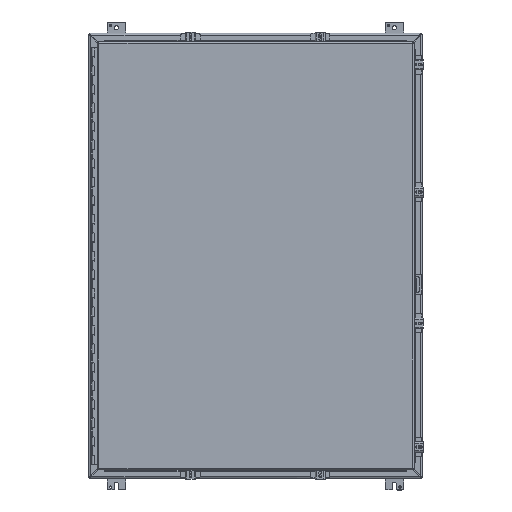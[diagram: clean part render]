
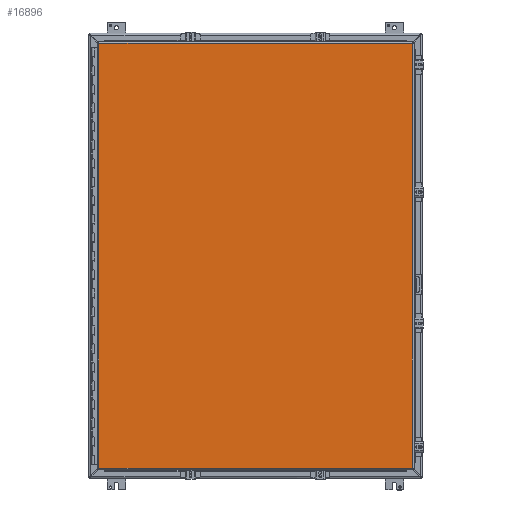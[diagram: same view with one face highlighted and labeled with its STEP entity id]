
A CAD part, top view. The second image highlights one B-rep face of the part: STEP entity #16896.
In plain terms, the highlighted planar face has unit normal (0, 0, 1) as drawn and (0, 0, -1) by its records, which use the part's own axes.
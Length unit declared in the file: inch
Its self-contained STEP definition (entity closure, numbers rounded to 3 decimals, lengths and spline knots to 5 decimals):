
#16873 = ORIENTED_EDGE ( 'NONE', *, *, #16874, .T. ) ;
#16874 = EDGE_CURVE ( 'NONE', #16901, #16875, #33940, .T. ) ;
#16875 = VERTEX_POINT ( 'NONE', #33989 ) ;
#16876 = ORIENTED_EDGE ( 'NONE', *, *, #16877, .T. ) ;
#16877 = EDGE_CURVE ( 'NONE', #16875, #16878, #33973, .T. ) ;
#16878 = VERTEX_POINT ( 'NONE', #33969 ) ;
#16879 = ORIENTED_EDGE ( 'NONE', *, *, #16880, .T. ) ;
#16880 = EDGE_CURVE ( 'NONE', #16878, #16900, #33968, .T. ) ;
#16896 = ADVANCED_FACE ( 'NONE', ( #34035 ), #34034, .T. ) ;
#16897 = EDGE_LOOP ( 'NONE', ( #16898, #16873, #16876, #16879 ) ) ;
#16898 = ORIENTED_EDGE ( 'NONE', *, *, #16899, .T. ) ;
#16899 = EDGE_CURVE ( 'NONE', #16900, #16901, #34093, .T. ) ;
#16900 = VERTEX_POINT ( 'NONE', #34089 ) ;
#16901 = VERTEX_POINT ( 'NONE', #34088 ) ;
#33940 = LINE ( 'NONE', #33992, #33991 ) ;
#33965 = DIRECTION ( 'NONE',  ( 0., -1., 0. ) ) ;
#33966 = VECTOR ( 'NONE', #33965, 39.37008 ) ;
#33967 = CARTESIAN_POINT ( 'NONE',  ( 16.916, 23.01893, 0. ) ) ;
#33968 = LINE ( 'NONE', #33967, #33966 ) ;
#33969 = CARTESIAN_POINT ( 'NONE',  ( 16.916, 22.916, 0. ) ) ;
#33970 = DIRECTION ( 'NONE',  ( 1., 0., 0. ) ) ;
#33971 = VECTOR ( 'NONE', #33970, 39.37008 ) ;
#33972 = CARTESIAN_POINT ( 'NONE',  ( -17.01893, 22.916, 0. ) ) ;
#33973 = LINE ( 'NONE', #33972, #33971 ) ;
#33989 = CARTESIAN_POINT ( 'NONE',  ( -16.916, 22.916, 0. ) ) ;
#33990 = DIRECTION ( 'NONE',  ( 0., 1., 0. ) ) ;
#33991 = VECTOR ( 'NONE', #33990, 39.37008 ) ;
#33992 = CARTESIAN_POINT ( 'NONE',  ( -16.916, -23.01893, 0. ) ) ;
#34033 = AXIS2_PLACEMENT_3D ( 'NONE', #34096, #34095, #34094 ) ;
#34034 = PLANE ( 'NONE',  #34033 ) ;
#34035 = FACE_OUTER_BOUND ( 'NONE', #16897, .T. ) ;
#34088 = CARTESIAN_POINT ( 'NONE',  ( -16.916, -22.916, 0. ) ) ;
#34089 = CARTESIAN_POINT ( 'NONE',  ( 16.916, -22.916, 0. ) ) ;
#34090 = DIRECTION ( 'NONE',  ( -1., 0., 0. ) ) ;
#34091 = VECTOR ( 'NONE', #34090, 39.37008 ) ;
#34092 = CARTESIAN_POINT ( 'NONE',  ( 17.01893, -22.916, 0. ) ) ;
#34093 = LINE ( 'NONE', #34092, #34091 ) ;
#34094 = DIRECTION ( 'NONE',  ( -1., 0., 0. ) ) ;
#34095 = DIRECTION ( 'NONE',  ( 0., 0., -1. ) ) ;
#34096 = CARTESIAN_POINT ( 'NONE',  ( -17.095, -23.095, 0. ) ) ;
